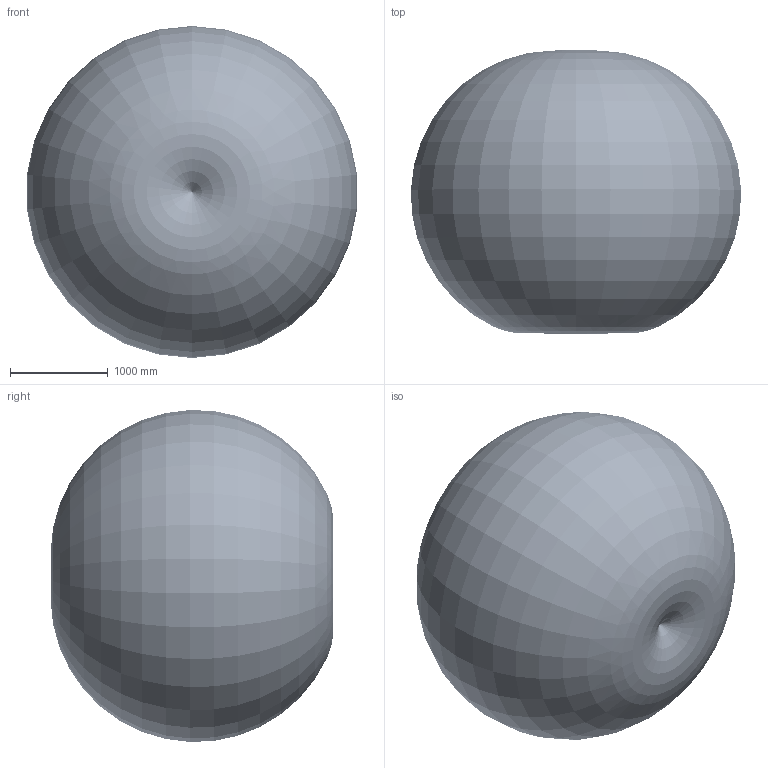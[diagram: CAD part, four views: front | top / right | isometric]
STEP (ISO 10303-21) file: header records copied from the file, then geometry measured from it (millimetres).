
FILE_DESCRIPTION (( 'STEP AP214' ), '1' );
FILE_NAME ('AIR25-1700C 3D model.STP', '2024-02-06T06:09:33', ( 'Windows User' ), ( 'P R C' ), 'SwSTEP 2.0', 'SolidWorks 2011', '' );
FILE_SCHEMA (( 'AUTOMOTIVE_DESIGN' ));
Length unit declared in the file: millimetre
Products named in the file (9): AIR25-1700C-Flange; AIR25-1700C-Working range; AIR25-1700C-Wrist; AIR25-1700C-Lower-arm; AIR25-1700C-Elbow; AIR25-1700C-Upper-arm; AIR25-1700C-Shoulder; AIR25-1700C-Base; AIR25-1700C 3D model
Assembly tree (8 placements, depth 2):
  AIR25-1700C 3D model
    AIR25-1700C-Flange
    AIR25-1700C-Lower-arm
    AIR25-1700C-Working range
    AIR25-1700C-Base
    AIR25-1700C-Shoulder
    AIR25-1700C-Elbow
    AIR25-1700C-Upper-arm
    AIR25-1700C-Wrist
Bounding box: 3383.01 x 2898.82 x 3401.64 mm (x, y, z)
Volume: 18490851413.8 mm3; surface area: 41482355.6 mm2
Topology: 249 solids, 363 shells, 22041 faces, 55666 edges, 34962 vertices
Faces by surface type: plane 10154, cylinder 5888, bspline 3146, cone 2125, torus 665, sphere 63
Entity records: 1184095 total; most frequent: CARTESIAN_POINT 467937, ORIENTED_EDGE 109711, DIRECTION 96664, EDGE_CURVE 54859, VERTEX_POINT 34933, AXIS2_PLACEMENT_3D 34430, VECTOR 27804, LINE 27804
